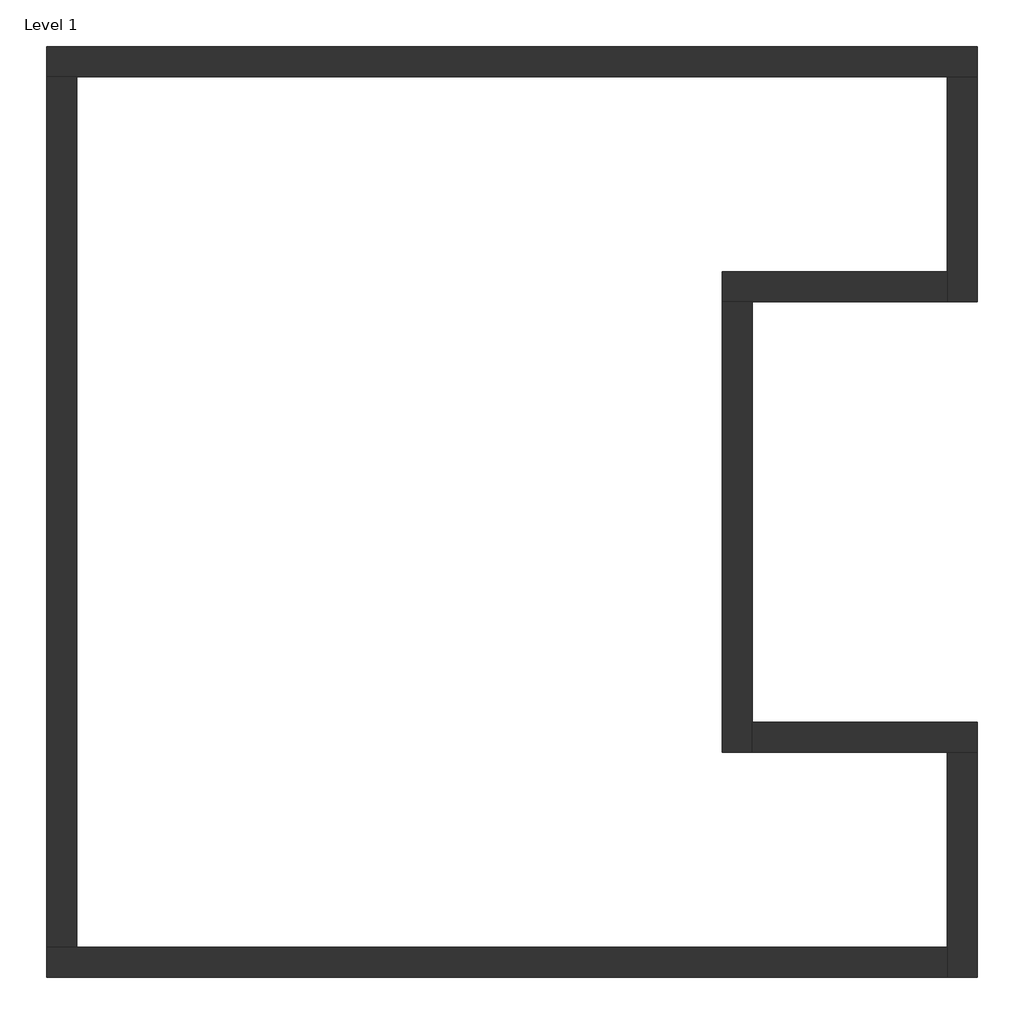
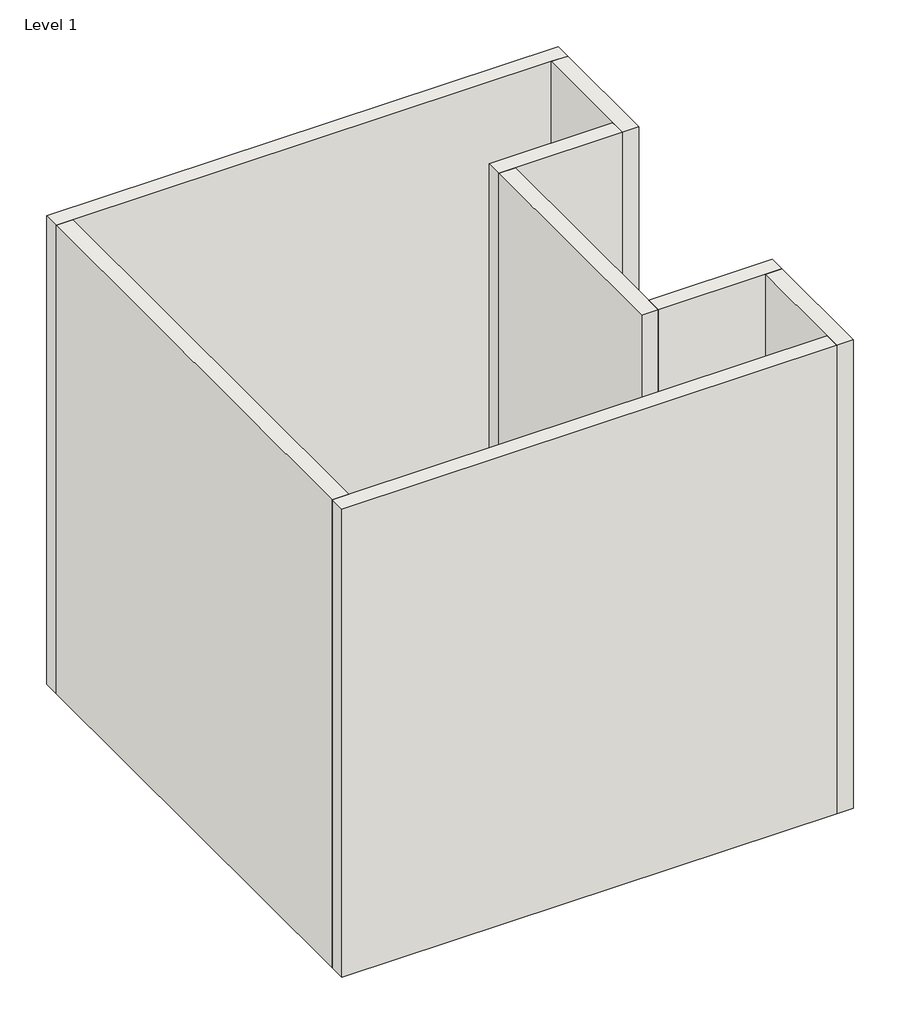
# One storey: 8 walls.
"""IFC4 building model written with IfcOpenShell, lengths in millimetres."""

from ifc_helpers import new_model, si_unit, origin, origin_with_axes, place, context, project, spatial, polyline, outline, extrude, faceted_brep, element, save

model = new_model("IFC4")

# Units and contexts
model_context = context("Model", 3, world=origin())
ifc_project = project(units=[si_unit("LENGTHUNIT", "METRE", prefix="MILLI")], contexts=[model_context])

# Site, building, storey
site = spatial("IfcSite", under=ifc_project)
building = spatial("IfcBuilding", under=site)
storey = spatial("IfcBuildingStorey", under=building, Name="Level 1", Elevation=0.0)

# Walls
placement = place(None, origin())
element("IfcWall", 1, ObjectType="Generic - 8\"", at=placement, inside=storey, context=model_context, shape_type="Brep", body=[
    faceted_brep([(33.510647, 1318.0153542, 0.0), (236.710647, 1318.0153542, 0.0), (6129.510647, 1318.0153542, 0.0), (6332.710647, 1318.0153542, 0.0), (6332.710647, 1318.0153542, 6096.0), (6129.510647, 1318.0153542, 6096.0), (236.710647, 1318.0153542, 6096.0), (33.510647, 1318.0153542, 6096.0), (33.510647, 1521.2153542, 0.0), (33.510647, 1521.2153542, 6096.0), (6332.710647, 1521.2153542, 6096.0), (6332.710647, 1521.2153542, 0.0)], [[[0, 1, 2, 3, 4, 5, 6, 7]], [[8, 9, 10, 11]], [[3, 2, 1, 0, 8, 11]], [[7, 6, 5, 4, 10, 9]], [[4, 3, 11, 10]], [[0, 7, 9, 8]]]),
])
element("IfcWall", 2, ObjectType="Generic - 8\"", at=placement, inside=storey, context=model_context, shape_type="Brep", body=[
    faceted_brep([(6129.510647, 1318.0153542, 0.0), (6129.510647, -2.7846458, 0.0), (6129.510647, -205.9846458, 0.0), (6129.510647, -205.9846458, 6096.0), (6129.510647, -2.7846458, 6096.0), (6129.510647, 1318.0153542, 6096.0), (6332.710647, 1318.0153542, 0.0), (6332.710647, 1318.0153542, 6096.0), (6332.710647, -205.9846458, 6096.0), (6332.710647, -205.9846458, 0.0)], [[[0, 1, 2, 3, 4, 5]], [[6, 7, 8, 9]], [[2, 1, 0, 6, 9]], [[5, 4, 3, 8, 7]], [[3, 2, 9, 8]], [[0, 5, 7, 6]]]),
])
element("IfcWall", 3, ObjectType="Generic - 8\"", at=placement, inside=storey, context=model_context, shape_type="Brep", body=[
    faceted_brep([(6129.510647, -2.7846458, 0.0), (4605.510647, -2.7846458, 0.0), (4605.510647, -2.7846458, 6096.0), (6129.510647, -2.7846458, 6096.0), (6129.510647, -205.9846458, 0.0), (6129.510647, -205.9846458, 6096.0), (4808.710647, -205.9846458, 6096.0), (4605.510647, -205.9846458, 6096.0), (4605.510647, -205.9846458, 0.0), (4808.710647, -205.9846458, 0.0)], [[[0, 1, 2, 3]], [[4, 5, 6, 7, 8, 9]], [[1, 0, 4, 9, 8]], [[3, 2, 7, 6, 5]], [[2, 1, 8, 7]], [[0, 3, 5, 4]]]),
])
element("IfcWall", 4, ObjectType="Generic - 8\"", at=placement, inside=storey, context=model_context, shape_type="Brep", body=[
    faceted_brep([(4605.510647, -205.9846458, 0.0), (4605.510647, -3253.9846458, 0.0), (4605.510647, -3253.9846458, 6096.0), (4605.510647, -205.9846458, 6096.0), (4808.710647, -205.9846458, 0.0), (4808.710647, -205.9846458, 6096.0), (4808.710647, -3050.7846458, 6096.0), (4808.710647, -3253.9846458, 6096.0), (4808.710647, -3253.9846458, 0.0), (4808.710647, -3050.7846458, 0.0)], [[[0, 1, 2, 3]], [[4, 5, 6, 7, 8, 9]], [[1, 0, 4, 9, 8]], [[3, 2, 7, 6, 5]], [[2, 1, 8, 7]], [[0, 3, 5, 4]]]),
])
element("IfcWall", 5, ObjectType="Generic - 8\"", at=placement, inside=storey, context=model_context, shape_type="Brep", body=[
    faceted_brep([(4808.710647, -3253.9846458, 0.0), (6129.510647, -3253.9846458, 0.0), (6332.710647, -3253.9846458, 0.0), (6332.710647, -3253.9846458, 6096.0), (6129.510647, -3253.9846458, 6096.0), (4808.710647, -3253.9846458, 6096.0), (4808.710647, -3050.7846458, 0.0), (4808.710647, -3050.7846458, 6096.0), (6332.710647, -3050.7846458, 6096.0), (6332.710647, -3050.7846458, 0.0)], [[[0, 1, 2, 3, 4, 5]], [[6, 7, 8, 9]], [[2, 1, 0, 6, 9]], [[5, 4, 3, 8, 7]], [[3, 2, 9, 8]], [[0, 5, 7, 6]]]),
])
element("IfcWall", 6, ObjectType="Generic - 8\"", at=placement, inside=storey, context=model_context, shape_type="Brep", body=[
    faceted_brep([(6129.510647, -3253.9846458, 0.0), (6129.510647, -4574.7846458, 0.0), (6129.510647, -4777.9846458, 0.0), (6129.510647, -4777.9846458, 6096.0), (6129.510647, -4574.7846458, 6096.0), (6129.510647, -3253.9846458, 6096.0), (6332.710647, -3253.9846458, 0.0), (6332.710647, -3253.9846458, 6096.0), (6332.710647, -4777.9846458, 6096.0), (6332.710647, -4777.9846458, 0.0)], [[[0, 1, 2, 3, 4, 5]], [[6, 7, 8, 9]], [[2, 1, 0, 6, 9]], [[5, 4, 3, 8, 7]], [[3, 2, 9, 8]], [[0, 5, 7, 6]]]),
])
element("IfcWall", 7, ObjectType="Generic - 8\"", at=placement, inside=storey, context=model_context, shape_type="Brep", body=[
    faceted_brep([(6129.510647, -4574.7846458, 0.0), (236.710647, -4574.7846458, 0.0), (33.510647, -4574.7846458, 0.0), (33.510647, -4574.7846458, 6096.0), (236.710647, -4574.7846458, 6096.0), (6129.510647, -4574.7846458, 6096.0), (6129.510647, -4777.9846458, 0.0), (6129.510647, -4777.9846458, 6096.0), (33.510647, -4777.9846458, 6096.0), (33.510647, -4777.9846458, 0.0)], [[[0, 1, 2, 3, 4, 5]], [[6, 7, 8, 9]], [[2, 1, 0, 6, 9]], [[5, 4, 3, 8, 7]], [[3, 2, 9, 8]], [[0, 5, 7, 6]]]),
])
element("IfcWall", 8, ObjectType="Generic - 8\"", at=placement, inside=storey, context=model_context, shape_type="SweptSolid", body=[
    extrude(outline(polyline([(236.710647, 1318.0153542), (236.710647, -4574.7846458), (33.510647, -4574.7846458), (33.510647, 1318.0153542), (236.710647, 1318.0153542)])), origin_with_axes(), (0.0, 0.0, 1.0), 6096.0),
])

save(model, "model.ifc")
